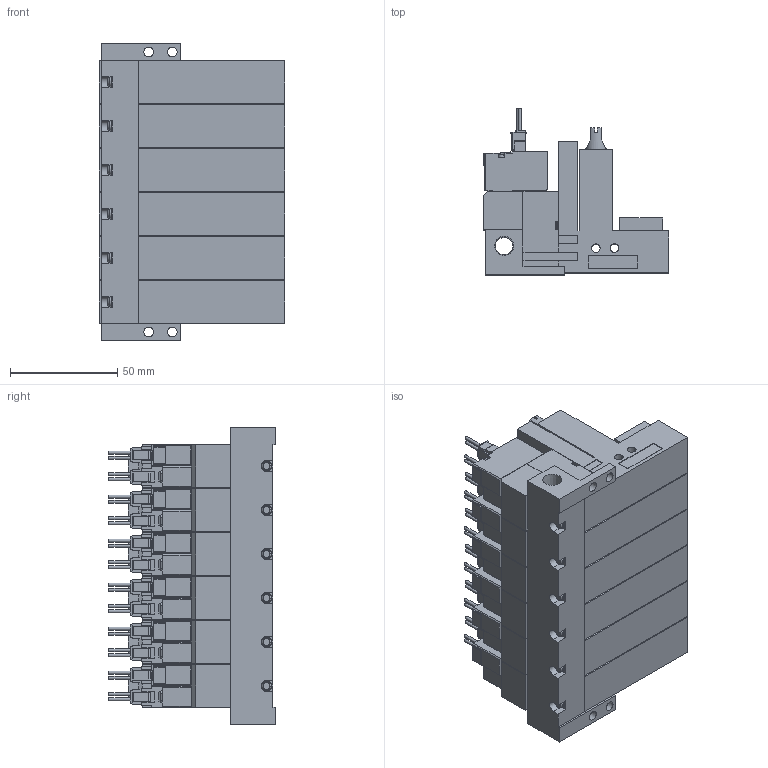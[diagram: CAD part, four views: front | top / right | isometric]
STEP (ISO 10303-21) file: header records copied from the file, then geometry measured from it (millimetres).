
FILE_DESCRIPTION(('STEP AP203'),'1');
FILE_NAME('ZL5ALR606.stp','2025-02-19T02:02:13',(' '),(' '),'Spatial InterOp 3D',' ',' ');
FILE_SCHEMA(('CONFIG_CONTROL_DESIGN'));
Length unit declared in the file: millimetre
Products named in the file (5): BMC22M※※※※ZL5ALR606; Solenoid valve A; Pressure sensor ZL; Unit L; Base MR60R
Assembly tree (19 placements, depth 2):
  BMC22M※※※※ZL5ALR606
    Solenoid valve A  x6
    Pressure sensor ZL  x6
    Unit L  x6
    Base MR60R
Bounding box: 86.6 x 77.45 x 138.5 mm (x, y, z)
Volume: 465251.8 mm3; surface area: 131864 mm2
Topology: 19 solids, 19 shells, 2097 faces, 5693 edges, 3748 vertices
Faces by surface type: plane 1802, cylinder 233, cone 44, torus 18
Full cylindrical faces by diameter (mm): 1.4 x24, 2.5 x6, 3 x24, 3.5 x24, 3.6 x6, 4 x12, 4.134 x6, 4.5 x4, 5.2 x6, 6 x6, 6.6 x6, 8.279 x1
Entity records: 13935 total; most frequent: CARTESIAN_POINT 2674, DIRECTION 2215, ORIENTED_EDGE 2166, EDGE_CURVE 1083, LINE 875, VECTOR 875, VERTEX_POINT 759, AXIS2_PLACEMENT_3D 670
